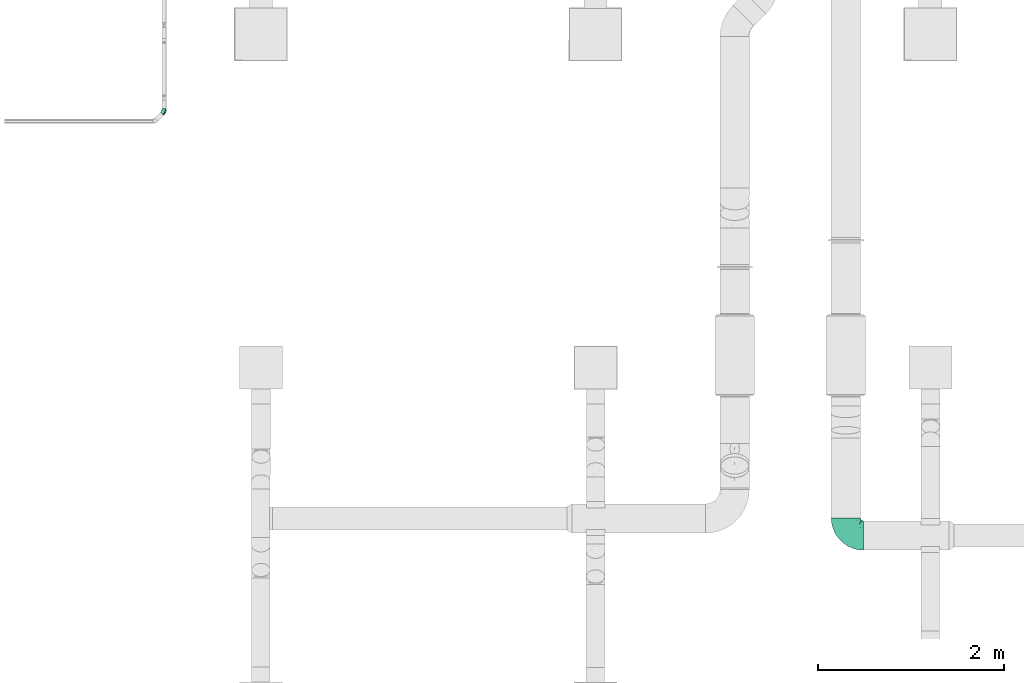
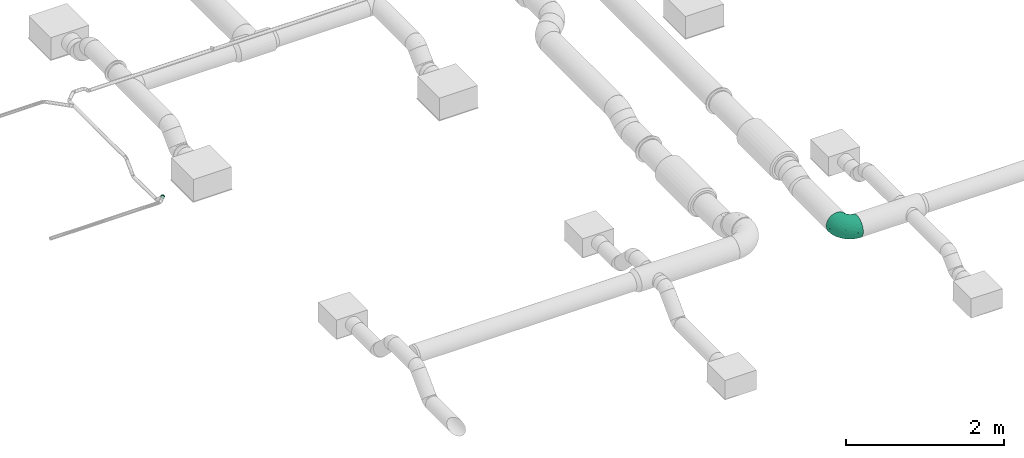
# One storey, part 56 of 63: 2 flow fittings.
"""IFC2X3 building model written with IfcOpenShell, lengths in millimetres."""

from ifc_helpers import new_model, entity, si_unit, converted_unit, derived_unit, direction, frame, origin_with_axes, place, context, subcontext, project, spatial, open_shell, surface_model, source, transform, mapped, type_object, element, save


model = new_model("IFC2X3")

# Units and contexts
model_context = context("Model", 3, precision=0.01, world=frame((0.0, 4.29681676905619e-09, 0.0)), true_north=direction((4.01073788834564e-13, 1.0)))
plan_context = context("Plan", 3, precision=0.01, world=frame((0.0, 4.29681676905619e-09, 0.0)), true_north=direction((4.01073788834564e-13, 1.0)))
body_context = subcontext(model_context, "Body", "Model", "MODEL_VIEW")
ifc_project = project(units=[converted_unit("PLANEANGLEUNIT", "DEGREE", entity("IfcPositiveLengthMeasure", 0.0174532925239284), si_unit("PLANEANGLEUNIT", "RADIAN"), dimensions=[0, 0, 0, 0, 0, 0, 0]), si_unit("AREAUNIT", "SQUARE_METRE"), si_unit("LENGTHUNIT", "METRE", prefix="MILLI"), si_unit("MASSUNIT", "GRAM", prefix="KILO"), si_unit("POWERUNIT", "WATT"), si_unit("PRESSUREUNIT", "PASCAL"), si_unit("FORCEUNIT", "NEWTON", prefix="KILO"), si_unit("ELECTRICVOLTAGEUNIT", "VOLT"), si_unit("ELECTRICCURRENTUNIT", "AMPERE"), si_unit("THERMODYNAMICTEMPERATUREUNIT", "DEGREE_CELSIUS"), si_unit("TIMEUNIT", "SECOND"), si_unit("VOLUMEUNIT", "CUBIC_METRE"), derived_unit("LINEARVELOCITYUNIT", [(si_unit("LENGTHUNIT", "METRE"), 1), (si_unit("TIMEUNIT", "SECOND"), -1)]), derived_unit("VOLUMETRICFLOWRATEUNIT", [(si_unit("VOLUMEUNIT", "CUBIC_METRE"), 1), (si_unit("TIMEUNIT", "SECOND"), -1)]), derived_unit("THERMALTRANSMITTANCEUNIT", [(si_unit("POWERUNIT", "WATT"), 1), (si_unit("THERMODYNAMICTEMPERATUREUNIT", "KELVIN"), -1), (si_unit("AREAUNIT", "SQUARE_METRE"), -1)]), derived_unit("SOUNDPRESSUREUNIT", [(si_unit("PRESSUREUNIT", "PASCAL"), 1)])], contexts=[model_context, plan_context])

# Site, building, storey
site_placement = place(None, frame((0.0, -4.29681676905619e-09, 0.0), z_axis=(0.0, 0.0, 1.0), x_axis=(1.0, 0.0, 0.0)))
site = spatial("IfcSite", under=ifc_project, at=site_placement, CompositionType="ELEMENT")
building_placement = place(site_placement, frame((0.0, 4.29681676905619e-09, 0.0), z_axis=(0.0, 0.0, 1.0), x_axis=(1.0, 0.0, 0.0)))
building = spatial("IfcBuilding", under=site, at=building_placement, Name="mc-building", CompositionType="ELEMENT")
storey_placement = place(building_placement, frame((0.0, 0.0, 210900.0), z_axis=(0.0, 0.0, 1.0), x_axis=(1.0, 0.0, 0.0)))
storey = spatial("IfcBuildingStorey", under=building, at=storey_placement, Name="Nivå F", CompositionType="ELEMENT", Elevation=210900.0)

# Flow fittings
duct_fitting_type_1 = type_object("IfcDuctFittingType", Name="magicirc_elbow_full_radius_001", PredefinedType="BEND")
shared_shape_1 = source(origin_with_axes(), body_context, "Body", "SurfaceModel", [
    surface_model("IfcShellBasedSurfaceModel", [(-28.86495, 6.47048, -24.14815), (-28.86495, 0.0, -25.0), (-28.86495, 24.14815, -6.47048), (-28.86495, 12.5, -21.65064), (-28.86495, 21.65064, -12.5), (-28.86495, 17.67767, -17.67767), (-28.86495, -17.67767, -17.67767), (-28.86495, -12.5, -21.65064), (-28.86495, -6.47048, -24.14815), (-28.86495, -21.65064, -12.5), (-28.86495, -24.14815, -6.47048), (-28.86495, -12.5, 21.65064), (-28.86495, -25.0, 0.0), (-28.86495, -24.14815, 6.47048), (-28.86495, 24.14815, 6.47048), (-28.86495, 25.0, 0.0), (-28.86495, 6.47048, 24.14815), (-28.86495, 21.65064, 12.5), (-28.86495, 17.67767, 17.67767), (-28.86495, 12.5, 21.65064), (-28.86495, -21.65064, 12.5), (-28.86495, -17.67767, 17.67767), (-28.86495, -6.47048, 24.14815), (-28.86495, 0.0, 25.0), (8.83105, 28.23234, -24.14815), (29.74303, 16.15665, -17.67767), (14.4344, 24.99667, -25.0), (-0.87423, 33.83668, -17.67767), (3.60956, 31.2475, -21.65064), (-4.31477, 35.82343, -12.5), (-6.47758, 37.07235, -6.47048), (20.03775, 21.761, -24.14815), (25.25923, 18.74583, -21.65064), (35.34638, 12.92098, -6.47048), (33.18356, 14.1699, -12.5), (36.08407, 12.495, 0.0), (35.34638, 12.92098, 6.47048), (-6.47758, 37.07235, 6.47048), (25.25923, 18.74583, 21.65064), (-0.87423, 33.83668, 17.67767), (-4.31477, 35.82343, 12.5), (3.60956, 31.2475, 21.65064), (8.83105, 28.23234, 24.14815), (20.03775, 21.761, 24.14815), (29.74303, 16.15665, 17.67767), (33.18356, 14.1699, 12.5), (14.4344, 24.99667, 25.0), (-7.21527, 37.49833, 0.0), (-20.30994, -19.69592, 14.70346), (-15.31797, -22.21647, 8.59489), (-9.33133, -17.95167, 14.01297), (-16.0401, -22.7388, 0.0), (0.81511, 21.35529, 23.41812), (3.65903, 14.81014, 24.91316), (20.58344, 6.29772, 19.21548), (-15.40797, -14.62638, 19.19889), (-10.86435, -8.11313, 22.52901), (-21.17634, -9.61464, 22.86526), (-4.99527, -13.58264, 17.43661), (-7.68163, -11.01719, 20.30124), (-16.6663, -2.8317, 24.64096), (-0.01498, 2.71183, 24.41117), (-14.65515, 4.23738, 24.91316), (8.06296, -13.96671, 0.0), (15.33204, -8.87936, 8.18633), (1.76681, -17.12931, 7.6901), (-7.75513, 13.43347, 23.75941), (-18.90101, 9.9732, 23.41812), (-6.6196, 29.00972, 15.74995), (6.91273, -11.78855, 12.92548), (-17.48073, 16.23088, 20.46185), (-13.29396, 23.02787, 16.41502), (-21.8118, 20.23928, 15.74995), (-12.60746, 28.03151, 10.53869), (-21.17495, 23.91476, 10.24395), (26.89918, 2.15544, 8.59489), (-17.11192, 27.20356, 5.65437), (21.98036, -4.46496, 4.92753), (10.78648, 13.01676, 24.64096), (13.36428, 6.33613, 22.57355), (-5.3142, 23.2546, 20.46185), (27.21273, 7.73887, 14.70346), (27.71262, 2.5196, 0.0), (28.2623, 2.00664, 4.38989), (-15.2449, -23.36616, 4.34403), (11.74225, -0.67215, 20.04826), (20.2122, -0.89622, 14.01297), (-16.36578, 28.34888, 0.0), (2.57703, -3.10662, 22.08453), (-5.1044, 8.84186, 24.87711), (-6.62132, -21.07833, 5.08416), (4.74369, -8.21705, 18.12211), (-3.21525, -20.4776, 0.0), (19.34117, -7.45581, 0.0), (-12.17004, -8.4048, -22.57355), (-15.31797, -22.21647, -8.59489), (0.02236, -17.71762, -8.18633), (-7.12505, -21.26748, -4.92753), (3.65903, 14.81014, -24.91316), (-14.65515, 4.23738, -24.91316), (-17.97035, 24.93552, -10.53869), (-13.29397, 23.02787, -16.41502), (-21.8118, 20.23928, -15.74995), (10.78648, 13.01676, -24.64096), (-17.48073, 16.23088, -20.46185), (27.21273, 7.73887, -14.70346), (-5.3142, 23.2546, -20.46185), (-18.90101, 9.9732, -23.41812), (-15.87076, -23.47133, -4.38989), (13.95023, -10.09583, -7.69009), (21.56466, -4.8066, -5.08416), (-20.30994, -19.69592, -14.70346), (-15.74684, -14.67571, -19.21548), (-2.34092, 1.36907, -24.41117), (1.4016, -3.78519, -22.08453), (-16.6663, -2.8317, -24.64096), (-15.00082, 28.4223, -5.65437), (-5.1044, 8.84186, -24.87711), (27.85825, 1.51724, -4.34402), (-10.12098, 30.2962, -10.24395), (-6.6196, 29.00972, -15.74995), (0.81511, 21.35529, -23.41812), (26.89918, 2.15544, -8.59489), (-7.75513, 13.43347, -23.75941), (6.7519, -11.88139, -12.92548), (20.2122, -0.89622, -14.01297), (18.91574, 13.53048, -22.86526), (20.37127, 6.02893, -19.19889), (12.45876, 5.35128, -22.52901), (14.26036, -2.46638, -17.43661), (13.38207, 1.14286, -20.30124), (-5.28984, -10.50476, -20.04826), (-9.33133, -17.95167, -14.01297), (4.7437, -8.21705, -18.12211)], [open_shell([[[0, 1, 2]], [[3, 0, 2]], [[2, 4, 5]], [[3, 2, 5]], [[6, 2, 1]], [[7, 6, 8]], [[6, 1, 8]], [[9, 10, 6]], [[11, 6, 10]], [[10, 12, 13]], [[2, 6, 11]], [[14, 15, 16]], [[17, 14, 18]], [[14, 16, 19]], [[18, 14, 19]], [[11, 16, 15]], [[20, 21, 13]], [[11, 13, 21]], [[10, 13, 11]], [[11, 22, 16]], [[22, 23, 16]], [[15, 2, 11]], [[24, 25, 26]], [[27, 24, 28]], [[27, 29, 30]], [[27, 30, 24]], [[25, 24, 30]], [[31, 25, 32]], [[31, 26, 25]], [[25, 33, 34]], [[35, 33, 36]], [[33, 25, 36]], [[25, 30, 37]], [[38, 25, 37]], [[39, 37, 40]], [[39, 41, 42]], [[39, 42, 37]], [[43, 37, 42]], [[36, 44, 45]], [[44, 36, 38]], [[37, 43, 38]], [[36, 25, 38]], [[46, 43, 42]], [[30, 47, 37]], [[48, 49, 50]], [[51, 13, 12]], [[42, 52, 53]], [[44, 38, 54]], [[55, 56, 57]], [[58, 59, 55]], [[42, 41, 52]], [[60, 61, 62]], [[11, 57, 22]], [[16, 23, 62]], [[63, 64, 65]], [[23, 60, 62]], [[62, 66, 67]], [[67, 19, 16]], [[49, 20, 13]], [[39, 40, 68]], [[69, 50, 65]], [[70, 71, 72]], [[11, 21, 55]], [[72, 17, 18]], [[71, 73, 74]], [[45, 75, 36]], [[76, 15, 14]], [[75, 64, 77]], [[50, 49, 65]], [[18, 19, 70]], [[43, 46, 78]], [[46, 53, 78]], [[17, 74, 14]], [[43, 79, 38]], [[66, 80, 70]], [[75, 45, 81]], [[66, 52, 80]], [[79, 54, 38]], [[71, 70, 80]], [[82, 83, 77]], [[51, 84, 13]], [[67, 70, 19]], [[85, 86, 54]], [[74, 76, 14]], [[21, 20, 48]], [[87, 76, 47]], [[88, 61, 56]], [[71, 68, 73]], [[78, 61, 79]], [[41, 39, 80]], [[89, 61, 53]], [[37, 73, 40]], [[62, 89, 66]], [[68, 80, 39]], [[42, 53, 46]], [[23, 22, 60]], [[37, 47, 76]], [[44, 81, 45]], [[65, 49, 90]], [[61, 88, 79]], [[65, 64, 69]], [[64, 75, 86]], [[83, 75, 77]], [[48, 55, 21]], [[58, 55, 50]], [[69, 86, 91]], [[65, 92, 63]], [[85, 54, 79]], [[81, 54, 86]], [[57, 60, 22]], [[61, 60, 56]], [[61, 78, 53]], [[79, 43, 78]], [[62, 67, 16]], [[84, 92, 90]], [[36, 83, 35]], [[70, 67, 66]], [[80, 52, 41]], [[53, 52, 66]], [[86, 69, 64]], [[69, 91, 58]], [[74, 17, 72]], [[93, 64, 63]], [[76, 74, 73]], [[37, 76, 73]], [[76, 87, 15]], [[70, 72, 18]], [[74, 72, 71]], [[73, 68, 40]], [[80, 68, 71]], [[49, 48, 20]], [[55, 48, 50]], [[54, 81, 44]], [[75, 81, 86]], [[55, 57, 11]], [[60, 57, 56]], [[59, 56, 55]], [[85, 88, 91]], [[61, 89, 62]], [[53, 66, 89]], [[84, 90, 49]], [[92, 65, 90]], [[13, 84, 49]], [[92, 84, 51]], [[69, 58, 50]], [[91, 88, 59]], [[91, 59, 58]], [[88, 56, 59]], [[64, 93, 77]], [[82, 77, 93]], [[35, 83, 82]], [[36, 75, 83]], [[88, 85, 79]], [[86, 85, 91]], [[94, 7, 8]], [[95, 96, 97]], [[24, 26, 98]], [[99, 1, 0]], [[100, 101, 102]], [[26, 103, 98]], [[3, 5, 104]], [[25, 34, 105]], [[5, 4, 102]], [[27, 28, 106]], [[9, 95, 10]], [[107, 0, 3]], [[51, 108, 97]], [[63, 96, 109]], [[109, 110, 93]], [[111, 95, 9]], [[112, 6, 7]], [[113, 114, 94]], [[94, 112, 7]], [[6, 111, 9]], [[115, 8, 1]], [[26, 31, 103]], [[2, 15, 116]], [[117, 113, 99]], [[15, 87, 116]], [[82, 118, 33]], [[47, 30, 116]], [[115, 113, 94]], [[2, 100, 4]], [[100, 119, 101]], [[120, 29, 27]], [[115, 1, 99]], [[28, 24, 121]], [[0, 107, 99]], [[104, 5, 102]], [[101, 120, 106]], [[122, 34, 33]], [[98, 123, 121]], [[98, 103, 113]], [[124, 125, 109]], [[122, 109, 125]], [[126, 127, 128]], [[32, 25, 127]], [[126, 31, 32]], [[125, 105, 122]], [[98, 117, 123]], [[35, 82, 33]], [[121, 106, 28]], [[123, 107, 104]], [[129, 130, 127]], [[131, 132, 112]], [[114, 113, 128]], [[101, 106, 104]], [[119, 116, 30]], [[123, 104, 106]], [[29, 119, 30]], [[109, 96, 124]], [[96, 95, 132]], [[108, 95, 97]], [[105, 127, 25]], [[129, 127, 125]], [[124, 132, 133]], [[109, 93, 63]], [[131, 112, 94]], [[111, 112, 132]], [[126, 103, 31]], [[113, 103, 128]], [[113, 115, 99]], [[94, 8, 115]], [[104, 107, 3]], [[118, 93, 110]], [[10, 108, 12]], [[99, 107, 123]], [[98, 121, 24]], [[106, 121, 123]], [[132, 124, 96]], [[124, 133, 129]], [[119, 29, 120]], [[92, 96, 63]], [[116, 119, 100]], [[2, 116, 100]], [[116, 87, 47]], [[100, 102, 4]], [[104, 102, 101]], [[106, 120, 27]], [[119, 120, 101]], [[122, 105, 34]], [[127, 105, 125]], [[112, 111, 6]], [[95, 111, 132]], [[127, 126, 32]], [[103, 126, 128]], [[130, 128, 127]], [[131, 114, 133]], [[113, 117, 98]], [[99, 123, 117]], [[109, 122, 110]], [[118, 110, 122]], [[33, 118, 122]], [[93, 118, 82]], [[124, 129, 125]], [[133, 114, 130]], [[133, 130, 129]], [[114, 128, 130]], [[96, 92, 97]], [[51, 97, 92]], [[12, 108, 51]], [[10, 95, 108]], [[114, 131, 94]], [[132, 131, 133]]])]),
])
flow_fitting_1_placement = place(storey_placement, frame((522260.0, 449950.4319, 4458.7868), z_axis=(0.577298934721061, -0.577375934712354, -0.577375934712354), x_axis=(0.0, -0.707106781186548, 0.707106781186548)))
element("IfcFlowFitting", 1, at=flow_fitting_1_placement, inside=storey, type_object=duct_fitting_type_1, Name="magicirc_elbow_full_radius_001", context=body_context, shape_type="MappedRepresentation", body=[
    mapped(shared_shape_1, transform((0.0, 0.0, 0.0), scale=1.0)),
])
duct_fitting_type_2 = type_object("IfcDuctFittingType", Name="magicirc_elbow_short_001", PredefinedType="BEND")
shared_shape_2 = source(origin_with_axes(), body_context, "Body", "SurfaceModel", [
    surface_model("IfcShellBasedSurfaceModel", [(-189.0, 78.75, -136.39901), (-189.0, 40.764, -152.13332), (-189.0, 0.0, -157.5), (-189.0, 111.36932, -111.36932), (-189.0, 152.13332, -40.764), (-189.0, 136.39901, -78.75), (-189.0, -152.13332, 40.764), (-189.0, -152.13332, -40.764), (-189.0, -78.75, -136.39901), (-189.0, -111.36932, -111.36932), (-189.0, -40.764, -152.13332), (-189.0, -136.39901, -78.75), (-189.0, -157.5, 0.0), (-189.0, 111.36932, 111.36932), (-189.0, 152.13332, 40.764), (-189.0, 136.39901, 78.75), (-189.0, 78.75, 136.39901), (-189.0, -111.36932, 111.36932), (-189.0, 40.764, 152.13332), (-189.0, -136.39901, 78.75), (-189.0, -78.75, 136.39901), (-189.0, -40.764, 152.13332), (-189.0, 0.0, 157.5), (-189.0, 157.5, 0.0), (0.0, 189.0, -157.5), (-40.764, 189.0, -152.13332), (-78.75, 189.0, -136.39901), (-111.36932, 189.0, -111.36932), (-136.39901, 189.0, -78.75), (-152.13332, 189.0, -40.764), (152.13332, 189.0, 40.764), (152.13332, 189.0, -40.764), (40.764, 189.0, -152.13332), (111.36932, 189.0, -111.36932), (78.75, 189.0, -136.39901), (136.39901, 189.0, -78.75), (157.5, 189.0, 0.0), (-152.13332, 189.0, 40.764), (-111.36932, 189.0, 111.36932), (-136.39901, 189.0, 78.75), (-78.75, 189.0, 136.39901), (-40.764, 189.0, 152.13332), (111.36932, 189.0, 111.36932), (136.39901, 189.0, 78.75), (40.764, 189.0, 152.13332), (78.75, 189.0, 136.39901), (0.0, 189.0, 157.5), (-157.5, 189.0, 0.0), (-146.82647, -148.73404, 43.55813), (-152.53698, -154.30989, 0.0), (-128.83091, -152.23588, 0.0), (49.033, 86.74286, 141.05575), (73.96756, 50.08962, 114.25948), (80.71898, 84.48868, 121.46737), (93.7561, -8.98795, 0.0), (68.80167, -29.22878, 51.72126), (76.4344, -33.72591, 0.0), (-97.37792, -140.80841, 36.13658), (-99.66046, -144.41969, 0.0), (-85.08944, 153.36086, 136.16868), (-70.49002, -136.60349, 0.0), (-52.11329, -124.77074, 36.00089), (-140.73024, -35.43399, 152.18621), (-160.5858, -130.32816, 86.54689), (-138.12227, -106.88194, 111.51409), (-121.65457, -76.11965, 132.88842), (-160.87463, -69.15915, 140.74672), (-25.25045, -109.00671, 44.67122), (-15.75, -111.0778, 0.0), (8.98795, -93.7561, 0.0), (35.48323, 140.48111, 152.15935), (-105.77141, -98.25391, 112.65537), (-125.05707, 110.33905, 130.87226), (-118.33723, 141.04327, 118.63047), (-140.45256, 132.57189, 108.08216), (-84.20627, -128.87676, 59.80247), (-42.24478, 37.80735, 155.99735), (-76.09851, 23.47671, 157.08968), (-21.97676, 5.08153, 145.85286), (-148.3241, 46.79067, 152.04619), (-141.07596, 83.6671, 139.4155), (-169.61846, 88.65571, 131.42231), (-149.86377, 7.0178, 157.47409), (-164.24817, 142.27922, 79.21812), (-38.90905, -74.51537, 108.39982), (-21.51185, -31.1381, 130.88448), (-78.48781, -47.09871, 140.242), (-158.04301, 118.06714, 111.13197), (-161.49592, 161.49592, 47.69938), (-173.25, 161.7202, 0.0), (-71.14672, 117.54032, 148.95444), (-48.53381, 80.38159, 157.08422), (-38.0499, 105.94603, 156.61108), (-107.82752, -27.46831, 151.74483), (25.98079, -68.52928, 57.91101), (-2.49207, -89.842, 57.91101), (18.17919, -85.25948, 29.47632), (106.91243, 137.86518, 111.44051), (107.98856, 76.77233, 91.09139), (132.43407, 110.53889, 68.40105), (98.22703, 106.22366, 112.80306), (49.87623, -56.82814, 34.06048), (76.2184, 120.66886, 132.67152), (69.30601, 160.29705, 140.64149), (148.73404, 146.82647, 43.55813), (136.44937, 149.61971, 74.39319), (141.15744, 96.23303, 33.28536), (154.30989, 152.53698, 0.0), (-79.14709, -78.07857, 121.85468), (-142.50673, 156.96891, 85.08305), (-6.25371, 146.56094, 157.49386), (-119.18069, 168.29594, 106.34604), (-7.7712, 37.9551, 150.34868), (-161.7202, 173.25, 0.0), (20.73863, 22.80421, 136.4838), (45.79638, 11.43074, 117.05167), (46.64669, 45.96804, 131.51649), (17.71633, 115.68288, 154.55145), (-44.71298, 135.75281, 153.51583), (124.10348, 54.99065, 42.78832), (19.23744, 59.23612, 147.07076), (-59.757, 189.0, 144.26616), (-40.39445, 162.15387, 152.84988), (-106.89705, 54.01286, 154.41806), (42.62384, -42.62385, 74.87208), (-103.67825, -119.29128, 87.6164), (-122.10302, -132.77719, 72.81501), (-74.73976, -107.05822, 91.29409), (-58.68494, -13.38955, 148.76775), (-33.42967, -98.98136, 75.3332), (-12.93373, -80.09293, 85.03047), (-57.45365, -116.48754, 64.67941), (144.41969, 99.66046, 0.0), (63.28555, -3.7111, 91.11734), (26.66288, -18.86236, 112.20397), (-88.20665, 88.20664, 150.49261), (-99.84608, 118.68975, 138.24779), (89.842, 2.49207, 57.91101), (107.83801, 32.48682, 57.64226), (89.5215, 29.9536, 86.32806), (103.18655, 7.97929, 29.47632), (-17.27408, 120.20724, 157.449), (136.60349, 70.49002, 0.0), (4.52175, -58.17888, 95.91834), (-25.69452, 61.39509, 156.43932), (-0.8953, 89.70214, 155.70588), (-71.774, 57.87122, 156.95328), (111.0778, 15.75, 0.0), (123.84065, 43.12001, 0.0), (-128.59823, 21.61394, 157.11194), (-102.54228, 0.8839, 156.46427), (-43.12001, -123.84065, 0.0), (152.23588, 128.83091, 0.0), (33.72591, -76.4344, 0.0), (55.08015, -55.08015, 0.0), (3.04001, -8.98392, 131.40941), (-149.37334, 6.90093, -157.47789), (-127.65053, 19.54445, -157.25505), (-101.63434, 0.86217, -156.41758), (-149.881, 117.88366, -114.79529), (-168.97769, 112.18181, -113.09611), (-171.44166, 138.11591, -80.8385), (-97.65829, -53.6841, -140.93797), (-128.71073, -75.30605, -134.41229), (-142.28639, -35.12049, -152.3525), (-14.53623, 14.53621, -146.53876), (19.21591, -10.56392, -122.16443), (-32.58138, -35.5269, -132.82409), (-189.0, -59.757, -144.26616), (-158.69814, -78.71922, -135.41598), (-161.49592, 161.49592, -47.69938), (-27.84596, 112.602, -157.13925), (-46.89661, 87.05932, -156.86637), (-54.76208, 116.09995, -153.27291), (24.54996, -65.39931, -65.68692), (62.53428, -39.64599, -45.03474), (42.35247, -61.80031, -40.474), (-85.22006, 154.17109, -135.94475), (-68.67661, 39.77392, -157.47698), (-96.27985, 86.46587, -149.09616), (-189.0, 59.757, -144.26616), (-164.33677, 41.04681, -152.5937), (-56.04714, 0.71063, -151.93473), (106.68579, 139.72934, -111.97263), (108.82999, 81.61939, -92.33309), (90.16092, 95.61076, -117.0636), (-143.49405, 167.03036, -75.05192), (-154.59868, 143.86665, -85.53345), (-146.82647, -148.73404, -43.55813), (-139.72934, -106.68579, -111.97263), (-109.30616, -96.88101, -114.84542), (-154.17109, 85.22006, -135.94475), (-122.7277, 106.27562, -133.8534), (-97.06108, 118.571, -139.46376), (-124.29608, 79.85164, -144.73443), (-149.61972, -136.44937, -74.39319), (-96.23303, -141.15744, -33.28536), (-54.06704, -123.39932, -43.77526), (-110.5389, -132.43407, -68.40105), (-135.48821, 131.24593, -112.46181), (75.91681, 64.4352, -118.50759), (-107.08066, 157.86996, -120.54603), (32.57609, 42.69927, -137.66346), (59.9817, 10.07153, -104.76193), (75.30605, 128.71071, -134.41229), (53.6841, 97.65827, -140.93797), (35.1205, 142.28638, -152.3525), (-45.33369, 140.10537, -153.03377), (-41.04681, 164.33677, -152.5937), (-59.757, 189.0, -144.26616), (-189.0, 123.88416, -95.05966), (-6.90093, 149.37331, -157.47789), (101.88085, 6.10023, -30.06201), (83.56153, -18.18278, -35.84847), (88.95677, 3.68958, -61.33662), (-73.96886, 100.59351, -151.25205), (78.71922, 158.69814, -135.41597), (59.757, 189.0, -144.26616), (94.06788, 40.28144, -87.79988), (107.297, 31.95277, -58.22044), (148.73404, 146.82647, -43.55813), (136.44937, 149.61971, -74.39319), (25.69513, 78.83868, -148.56019), (52.78982, 64.18559, -133.79037), (141.15744, 96.23303, -33.28536), (123.39931, 54.06704, -43.77527), (-99.67042, 56.5784, -154.75725), (-81.6194, -108.82999, -92.33309), (-140.10539, 45.33368, -153.03377), (-64.43522, -75.91682, -118.50759), (-62.75607, -51.57693, -134.04781), (-14.17822, -66.28312, -101.5314), (65.05234, -15.13826, -77.86444), (37.80166, -37.80167, -86.30899), (132.43407, 110.53889, -68.40105), (16.73141, 123.34849, -155.1767), (-0.86217, 101.63431, -156.41758), (-125.84608, 166.17885, -99.79484), (-118.31036, 141.35192, -118.49872), (-13.21391, 58.80011, -154.66423), (-36.36222, 37.14521, -155.28703), (-112.79208, -24.56514, -152.90791), (-39.63577, -93.47058, -88.13749), (-6.61847, -102.14217, -30.33919), (-32.26173, -107.24999, -58.68616), (-135.56345, 151.20073, -97.68664), (-3.68958, -88.95677, -61.33662), (-0.69072, -39.04419, -115.81001), (-77.00417, -27.43387, -147.69846), (21.29912, -81.73119, -33.87707), (-189.0, 144.26616, -59.757)], [open_shell([[[0, 1, 2]], [[3, 0, 2]], [[4, 5, 3]], [[6, 3, 2]], [[6, 2, 7]], [[8, 9, 10]], [[7, 10, 9]], [[11, 7, 9]], [[7, 2, 10]], [[12, 6, 7]], [[3, 6, 4]], [[13, 14, 4]], [[15, 14, 13]], [[16, 13, 6]], [[4, 6, 13]], [[17, 18, 16]], [[19, 17, 6]], [[17, 16, 6]], [[20, 21, 17]], [[22, 17, 21]], [[17, 22, 18]], [[23, 4, 14]], [[24, 25, 26]], [[24, 26, 27]], [[27, 28, 29]], [[24, 27, 30]], [[31, 24, 30]], [[32, 33, 34]], [[33, 32, 31]], [[33, 31, 35]], [[32, 24, 31]], [[31, 30, 36]], [[29, 30, 27]], [[29, 37, 38]], [[38, 37, 39]], [[30, 38, 40]], [[38, 30, 29]], [[40, 41, 42]], [[30, 42, 43]], [[30, 40, 42]], [[42, 44, 45]], [[44, 42, 46]], [[41, 46, 42]], [[37, 29, 47]], [[48, 49, 50]], [[51, 52, 53]], [[54, 55, 56]], [[48, 6, 49]], [[57, 48, 58]], [[40, 38, 59]], [[57, 60, 61]], [[21, 62, 22]], [[63, 17, 19]], [[64, 65, 66]], [[67, 68, 69]], [[44, 46, 70]], [[48, 19, 6]], [[65, 64, 71]], [[72, 73, 74]], [[57, 61, 75]], [[76, 77, 78]], [[17, 64, 20]], [[79, 80, 81]], [[82, 18, 22]], [[62, 21, 66]], [[15, 83, 14]], [[84, 85, 86]], [[13, 87, 15]], [[88, 23, 14]], [[23, 88, 89]], [[90, 91, 92]], [[62, 86, 93]], [[16, 81, 13]], [[94, 95, 96]], [[47, 88, 37]], [[97, 98, 99]], [[66, 21, 20]], [[53, 98, 100]], [[94, 96, 101]], [[102, 70, 51]], [[44, 103, 45]], [[45, 97, 42]], [[104, 105, 106]], [[103, 70, 102]], [[104, 107, 30]], [[45, 103, 97]], [[106, 105, 99]], [[104, 30, 43]], [[108, 65, 71]], [[88, 83, 109]], [[46, 41, 110]], [[109, 111, 39]], [[87, 83, 15]], [[78, 112, 76]], [[100, 97, 102]], [[89, 88, 113]], [[114, 115, 116]], [[113, 88, 47]], [[16, 18, 79]], [[88, 109, 37]], [[110, 70, 46]], [[70, 110, 117]], [[59, 90, 118]], [[38, 39, 111]], [[13, 81, 87]], [[99, 98, 119]], [[116, 51, 120]], [[121, 40, 122]], [[40, 59, 122]], [[80, 79, 123]], [[63, 64, 17]], [[124, 101, 55]], [[125, 126, 75]], [[105, 97, 99]], [[86, 62, 65]], [[62, 93, 82]], [[127, 108, 71]], [[86, 85, 128]], [[129, 130, 84]], [[127, 125, 131]], [[104, 106, 132]], [[124, 133, 134]], [[82, 79, 18]], [[80, 123, 135]], [[72, 87, 80]], [[83, 87, 74]], [[111, 59, 38]], [[73, 72, 136]], [[137, 138, 139]], [[55, 140, 137]], [[122, 41, 121]], [[110, 122, 141]], [[140, 138, 137]], [[106, 119, 142]], [[117, 51, 70]], [[143, 134, 85]], [[144, 120, 145]], [[135, 91, 90]], [[76, 91, 146]], [[128, 78, 77]], [[129, 127, 131]], [[94, 143, 130]], [[58, 60, 57]], [[63, 48, 126]], [[105, 104, 43]], [[119, 147, 148]], [[62, 82, 22]], [[149, 82, 150]], [[149, 123, 79]], [[146, 77, 76]], [[87, 72, 74]], [[14, 83, 88]], [[111, 109, 73]], [[37, 109, 39]], [[80, 135, 72]], [[136, 135, 90]], [[48, 50, 58]], [[61, 60, 151]], [[48, 57, 126]], [[67, 95, 129]], [[57, 75, 126]], [[132, 106, 142]], [[132, 152, 104]], [[119, 106, 99]], [[131, 75, 61]], [[75, 131, 125]], [[71, 125, 127]], [[64, 126, 125]], [[67, 131, 61]], [[131, 67, 129]], [[61, 68, 67]], [[69, 96, 67]], [[96, 153, 101]], [[153, 96, 69]], [[67, 96, 95]], [[101, 153, 154]], [[54, 140, 55]], [[101, 124, 94]], [[94, 124, 143]], [[134, 143, 124]], [[85, 84, 143]], [[55, 133, 124]], [[114, 78, 155]], [[130, 129, 95]], [[127, 129, 84]], [[139, 133, 137]], [[52, 116, 115]], [[94, 130, 95]], [[84, 130, 143]], [[56, 55, 101]], [[133, 55, 137]], [[149, 150, 77]], [[140, 54, 147]], [[138, 140, 119]], [[119, 98, 138]], [[139, 98, 52]], [[98, 139, 138]], [[133, 139, 52]], [[136, 59, 73]], [[146, 91, 135]], [[144, 76, 112]], [[145, 141, 92]], [[73, 109, 74]], [[83, 74, 109]], [[43, 42, 105]], [[97, 105, 42]], [[135, 123, 146]], [[123, 149, 77]], [[123, 77, 146]], [[128, 77, 150]], [[128, 150, 93]], [[128, 85, 78]], [[155, 78, 85]], [[112, 78, 114]], [[120, 112, 114]], [[76, 144, 91]], [[116, 120, 114]], [[117, 120, 51]], [[114, 134, 115]], [[51, 116, 52]], [[134, 133, 115]], [[52, 115, 133]], [[120, 144, 112]], [[92, 144, 145]], [[135, 136, 72]], [[59, 136, 90]], [[85, 134, 155]], [[114, 155, 134]], [[6, 12, 49]], [[107, 104, 152]], [[107, 36, 30]], [[59, 111, 73]], [[70, 103, 44]], [[97, 103, 102]], [[48, 63, 19]], [[64, 63, 126]], [[64, 66, 20]], [[62, 66, 65]], [[79, 81, 16]], [[87, 81, 80]], [[122, 59, 118]], [[141, 122, 118]], [[110, 41, 122]], [[125, 71, 64]], [[108, 127, 84]], [[84, 86, 108]], [[86, 65, 108]], [[128, 93, 86]], [[82, 93, 150]], [[53, 100, 102]], [[98, 97, 100]], [[51, 53, 102]], [[98, 53, 52]], [[92, 141, 118]], [[117, 141, 145]], [[90, 92, 118]], [[92, 91, 144]], [[141, 117, 110]], [[117, 145, 120]], [[147, 119, 140]], [[148, 142, 119]], [[79, 82, 149]], [[68, 61, 151]], [[56, 101, 154]], [[156, 157, 158]], [[159, 160, 161]], [[162, 163, 164]], [[165, 166, 167]], [[2, 1, 156]], [[168, 169, 8]], [[89, 170, 23]], [[171, 172, 173]], [[174, 175, 176]], [[26, 177, 27]], [[23, 170, 4]], [[178, 179, 172]], [[180, 0, 181]], [[178, 182, 158]], [[183, 184, 185]], [[170, 186, 187]], [[11, 188, 7]], [[189, 169, 190]], [[0, 3, 191]], [[188, 49, 7]], [[31, 36, 107]], [[179, 192, 193]], [[8, 189, 9]], [[194, 191, 192]], [[188, 195, 196]], [[168, 10, 169]], [[60, 197, 151]], [[29, 186, 170]], [[163, 169, 10]], [[195, 198, 196]], [[159, 199, 192]], [[34, 33, 183]], [[170, 89, 113]], [[200, 185, 184]], [[47, 29, 170]], [[10, 2, 164]], [[201, 27, 177]], [[202, 203, 166]], [[204, 205, 206]], [[207, 177, 26]], [[208, 209, 25]], [[161, 160, 210]], [[24, 32, 206]], [[186, 29, 28]], [[56, 154, 175]], [[24, 211, 25]], [[212, 213, 214]], [[26, 209, 208]], [[179, 193, 215]], [[34, 216, 217]], [[218, 219, 214]], [[214, 219, 212]], [[188, 196, 58]], [[32, 217, 216]], [[220, 221, 35]], [[222, 205, 223]], [[132, 224, 220]], [[147, 212, 225]], [[107, 152, 220]], [[31, 107, 220]], [[194, 179, 226]], [[189, 227, 198]], [[161, 4, 170]], [[35, 31, 220]], [[228, 181, 0]], [[204, 206, 32]], [[229, 230, 231]], [[47, 170, 113]], [[203, 232, 233]], [[227, 197, 198]], [[221, 183, 33]], [[183, 234, 184]], [[204, 185, 205]], [[211, 235, 236]], [[156, 164, 2]], [[163, 162, 229]], [[190, 229, 227]], [[195, 189, 198]], [[160, 3, 210]], [[191, 159, 192]], [[172, 215, 173]], [[237, 201, 238]], [[239, 172, 171]], [[157, 226, 158]], [[240, 172, 239]], [[178, 240, 182]], [[195, 188, 11]], [[196, 197, 60]], [[132, 142, 224]], [[220, 224, 221]], [[1, 180, 181]], [[156, 158, 241]], [[206, 211, 24]], [[211, 236, 171]], [[225, 184, 234]], [[218, 200, 184]], [[229, 190, 163]], [[212, 219, 225]], [[231, 242, 229]], [[243, 197, 244]], [[227, 242, 244]], [[243, 68, 197]], [[28, 237, 186]], [[199, 187, 245]], [[245, 186, 237]], [[5, 161, 210]], [[58, 196, 60]], [[58, 50, 188]], [[197, 196, 198]], [[220, 152, 132]], [[225, 234, 224]], [[224, 234, 221]], [[223, 205, 200]], [[205, 222, 235]], [[202, 223, 203]], [[202, 165, 239]], [[203, 200, 218]], [[166, 203, 233]], [[242, 231, 246]], [[202, 166, 165]], [[247, 233, 231]], [[162, 248, 230]], [[158, 248, 241]], [[248, 158, 182]], [[247, 231, 167]], [[174, 231, 233]], [[244, 242, 246]], [[227, 229, 242]], [[27, 237, 28]], [[245, 237, 238]], [[27, 201, 237]], [[193, 201, 177]], [[199, 245, 238]], [[187, 186, 245]], [[238, 193, 192]], [[187, 199, 159]], [[238, 192, 199]], [[192, 179, 194]], [[201, 193, 238]], [[207, 173, 177]], [[226, 179, 178]], [[228, 191, 194]], [[158, 226, 178]], [[228, 194, 226]], [[193, 177, 173]], [[172, 179, 215]], [[173, 215, 193]], [[171, 173, 207]], [[211, 171, 207]], [[171, 236, 239]], [[244, 246, 243]], [[227, 244, 197]], [[249, 243, 246]], [[249, 69, 243]], [[246, 174, 249]], [[176, 153, 249]], [[249, 174, 176]], [[154, 153, 176]], [[175, 233, 232]], [[231, 174, 246]], [[175, 174, 233]], [[69, 249, 153]], [[69, 68, 243]], [[154, 176, 175]], [[11, 9, 195]], [[189, 195, 9]], [[183, 221, 234]], [[33, 35, 221]], [[239, 236, 222]], [[240, 239, 165]], [[219, 184, 225]], [[203, 218, 214]], [[184, 219, 218]], [[225, 142, 148]], [[212, 147, 54]], [[213, 175, 232]], [[54, 213, 212]], [[213, 54, 56]], [[56, 175, 213]], [[49, 188, 50]], [[49, 12, 7]], [[4, 161, 250]], [[159, 191, 160]], [[191, 3, 160]], [[216, 204, 32]], [[34, 183, 216]], [[183, 204, 216]], [[163, 10, 164]], [[190, 169, 163]], [[189, 8, 169]], [[228, 0, 191]], [[157, 181, 228]], [[156, 1, 181]], [[208, 211, 207]], [[211, 208, 25]], [[26, 208, 207]], [[165, 167, 182]], [[229, 162, 230]], [[167, 248, 182]], [[241, 162, 164]], [[162, 241, 248]], [[156, 241, 164]], [[248, 167, 230]], [[231, 230, 167]], [[181, 157, 156]], [[226, 157, 228]], [[211, 206, 235]], [[205, 235, 206]], [[205, 185, 200]], [[183, 185, 204]], [[142, 225, 224]], [[148, 147, 225]], [[227, 189, 190]], [[197, 68, 151]], [[161, 170, 187]], [[161, 5, 250]], [[159, 161, 187]], [[203, 223, 200]], [[222, 223, 202]], [[239, 222, 202]], [[222, 236, 235]], [[203, 214, 232]], [[232, 214, 213]], [[167, 166, 247]], [[233, 247, 166]], [[182, 240, 165]], [[172, 240, 178]]])]),
])
flow_fitting_2_placement = place(storey_placement, frame((529594.70329, 445392.76929, 4131.19871999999), z_axis=(0.0, 0.0, 1.0), x_axis=(0.0, -1.0, 0.0)))
element("IfcFlowFitting", 2, at=flow_fitting_2_placement, inside=storey, type_object=duct_fitting_type_2, Name="magicirc_elbow_short_001", context=body_context, shape_type="MappedRepresentation", body=[
    mapped(shared_shape_2, transform((0.0, 0.0, 0.0), scale=1.0)),
])

save(model, "model.ifc")
